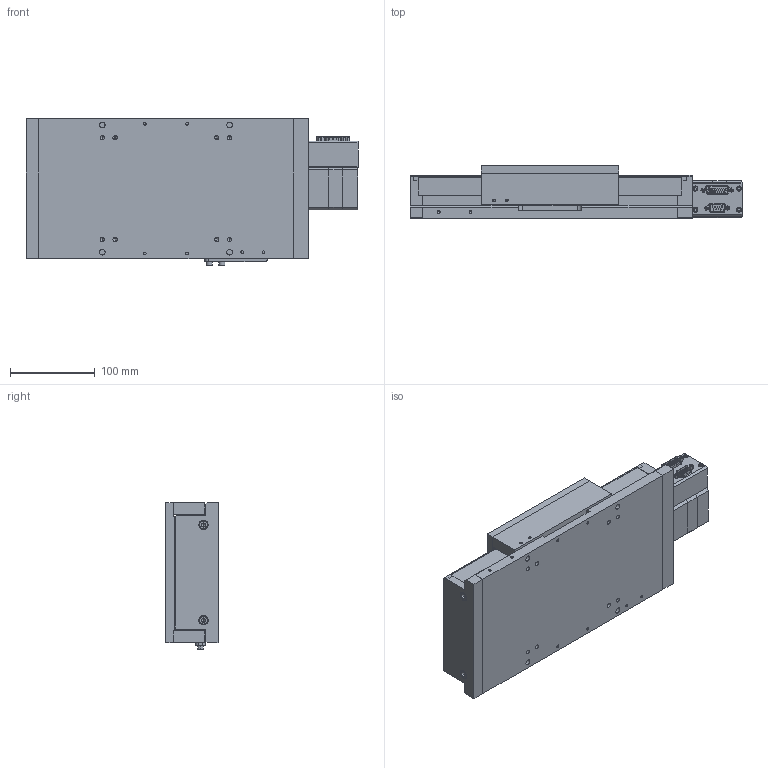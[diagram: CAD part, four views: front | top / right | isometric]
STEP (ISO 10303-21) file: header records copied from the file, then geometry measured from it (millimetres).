
FILE_DESCRIPTION (( 'STEP AP214' ), '1' );
FILE_NAME ('LM3-100-BS-A-H-S-EXPORT.STEP', '2024-05-07T14:51:31', ( 'lab' ), ( '' ), 'SwSTEP 2.0', 'SolidWorks 2018', '' );
FILE_SCHEMA (( 'AUTOMOTIVE_DESIGN' ));
Length unit declared in the file: millimetre
Products named in the file (16): 1000002; 1000014_91290A150; 1000015; 1000010; 1000008; 1000007; LM3-100-BS-A-H-S-EXPORT; 1000013; 1000012; 1000001; 1000011_100; 1000009; 1000005; 1000006; 1000004; 1000003_91290A148
Assembly tree (27 placements, depth 3):
  LM3-100-BS-A-H-S-EXPORT
    1000015
      1000001  x2
      1000002
      1000003_91290A148  x2
      1000004
      1000005
      1000006
      1000007
      1000008
      1000009
      1000010  x4
      1000011_100
      1000012
      1000013
      1000014_91290A150  x8
Bounding box: 391.4 x 62 x 173 mm (x, y, z)
Volume: 3027830.1 mm3; surface area: 345951.9 mm2
Topology: 78 solids, 78 shells, 1692 faces, 3862 edges, 2378 vertices
Faces by surface type: plane 889, cylinder 441, cone 192, bspline 170
Entity records: 51579 total; most frequent: CARTESIAN_POINT 12919, DIRECTION 6444, ORIENTED_EDGE 6328, EDGE_CURVE 3164, AXIS2_PLACEMENT_3D 2268, VERTEX_POINT 2015, LINE 1908, VECTOR 1908
